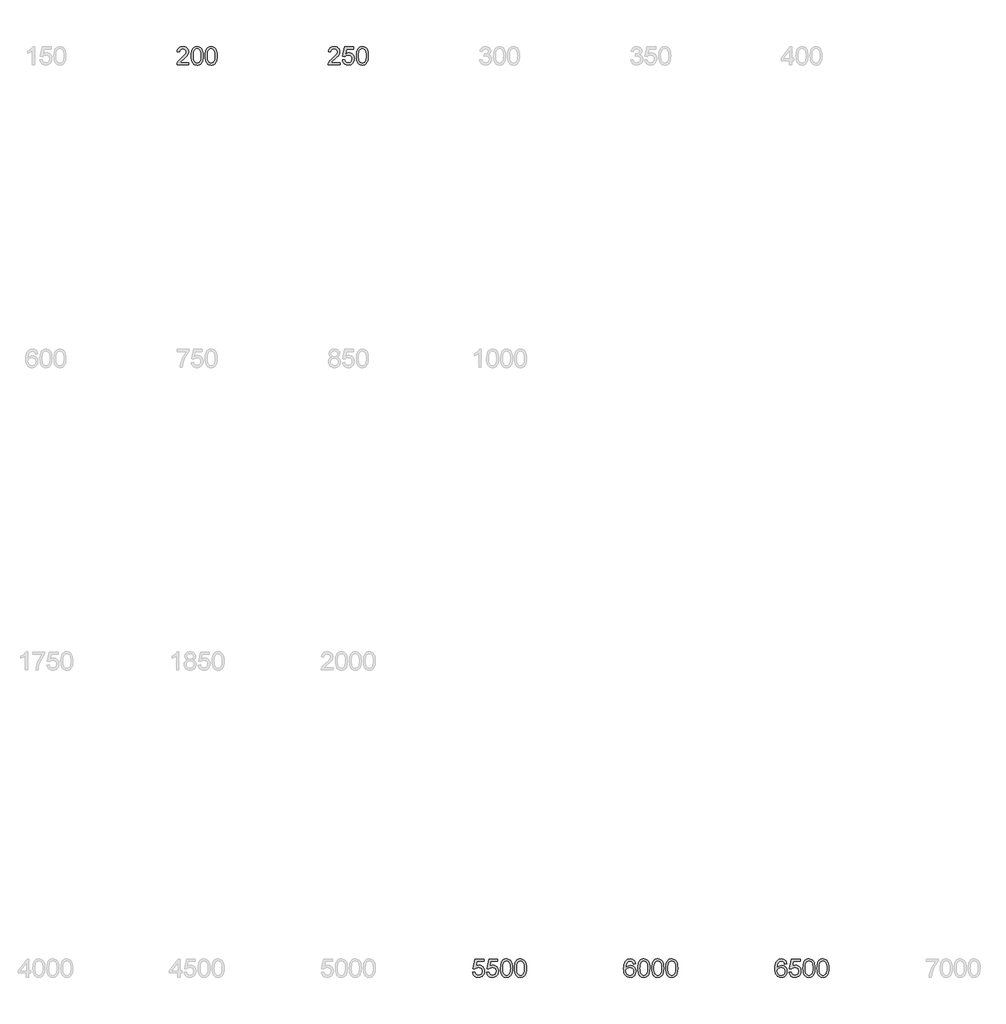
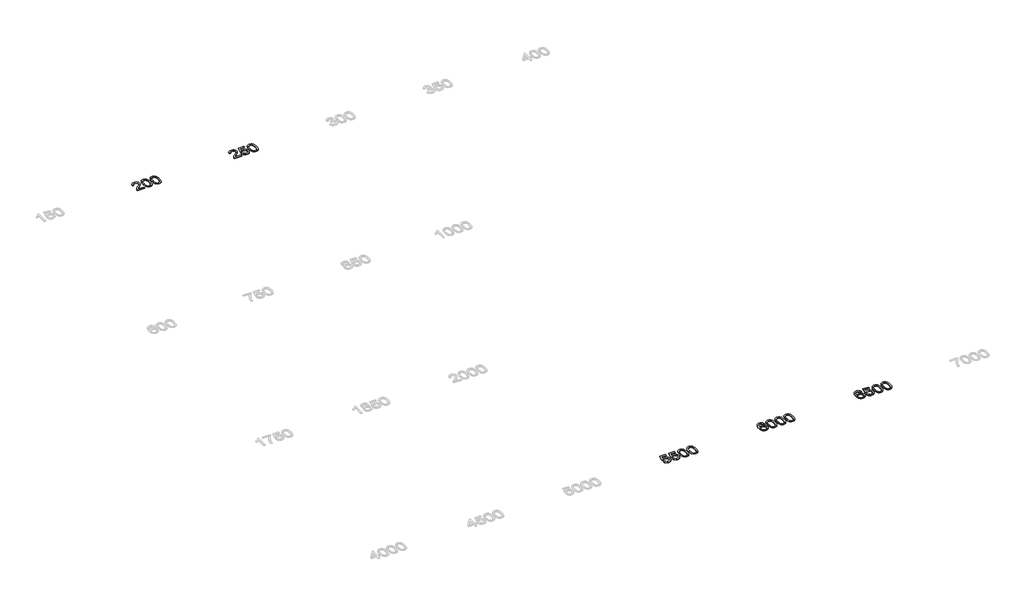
# One storey, part 5 of 8: 5 proxies.
"""IFC4 building model written with IfcOpenShell, lengths in millimetres."""

from ifc_helpers import new_model, si_unit, origin, origin_with_axes, place, context, project, spatial, polyline, outline, extrude, element, save

model = new_model("IFC4")

# Units and contexts
model_context = context("Model", 3, world=origin())
ifc_project = project(units=[si_unit("LENGTHUNIT", "METRE", prefix="MILLI")], contexts=[model_context])

# Site, building, storey
site = spatial("IfcSite", under=ifc_project)
building = spatial("IfcBuilding", under=site)
storey = spatial("IfcBuildingStorey", under=building, Name="Этаж 01", Elevation=0.0)

# Proxies
placement = place(None, origin())
element("IfcBuildingElementProxy", 1, Name="600 мм Arial", ObjectType="600 мм Arial", at=placement, inside=storey, context=model_context, shape_type="SweptSolid", body=[
    extrude(outline(polyline([(-6668.4067037, -3620.5508645), (-6668.4067037, -3695.8930971), (-7063.9534249, -3695.8930971), (-7062.2979559, -3669.3688053), (-7055.860021, -3643.9481594), (-7037.2819802, -3603.3523813), (-7010.0955008, -3563.9706137), (-6970.7689155, -3522.7494361), (-6915.7705572, -3476.635428), (-6834.4686363, -3404.4201924), (-6785.6874837, -3351.1140913), (-6771.4596476, -3329.3354771), (-6761.2969075, -3307.8511686), (-6755.1992634, -3286.6611657), (-6753.1667154, -3265.7654684), (-6755.0843003, -3246.1067743), (-6760.837055, -3228.0391698), (-6770.4249795, -3211.5626549), (-6783.8480738, -3196.6772297), (-6800.3613768, -3184.3485843), (-6819.2199276, -3175.5424091), (-6840.4237261, -3170.2587039), (-6863.9727723, -3168.4974689), (-6888.7818144, -3170.2173172), (-6910.9696972, -3175.3768622), (-6930.5364208, -3183.9761038), (-6947.4819852, -3196.0150421), (-6961.1901881, -3211.0890068), (-6971.044827, -3228.7933279), (-6977.0459021, -3249.1280051), (-6979.1934132, -3272.0930387), (-7054.5356458, -3262.6752596), (-7048.0563242, -3223.7809357), (-7036.2703048, -3189.7978364), (-7019.1775876, -3160.7259617), (-6996.7781726, -3136.5653117), (-6969.5870946, -3117.5734037), (-6938.1193884, -3104.0077551), (-6902.3750541, -3095.868366), (-6862.3540915, -3093.1552362), (-6821.974444, -3096.1718686), (-6786.0369716, -3105.2217657), (-6754.5416743, -3120.3049275), (-6727.4885521, -3141.421354), (-6705.7605218, -3167.0075468), (-6690.2405001, -3195.5000073), (-6680.9284871, -3226.8987356), (-6677.8244828, -3261.2037316), (-6681.1722089, -3297.2377731), (-6691.2153874, -3332.6464151), (-6709.03927, -3368.6620624), (-6735.7291088, -3406.5171197), (-6778.2746615, -3451.7114228), (-6843.6656862, -3509.7448076), (-6930.3386842, -3582.2175606), (-6964.3309806, -3620.5508645), (-6668.4067037, -3620.5508645)])), origin_with_axes(), (0.0, 0.0, 1.0), 20.0),
    extrude(outline(polyline([(-6593.0644711, -3399.380209), (-6587.527847, -3302.9031558), (-6580.607067, -3261.9900794), (-6570.917975, -3225.9606365), (-6558.5019576, -3194.5205215), (-6543.4004017, -3167.3754288), (-6525.6133073, -3144.5253583), (-6505.1406742, -3125.9703102), (-6481.9135248, -3111.6137153), (-6455.862881, -3101.3590047), (-6426.9887429, -3095.2061784), (-6395.2911105, -3093.1552362), (-6348.8644027, -3098.0112786), (-6307.2937372, -3112.5794056), (-6272.5288887, -3136.2894002), (-6246.5196316, -3168.5710453), (-6226.8747331, -3209.1484293), (-6211.2029601, -3257.7456409), (-6200.9390524, -3319.4578456), (-6197.5177499, -3399.380209), (-6202.9991916, -3495.3054393), (-6209.8509937, -3536.0805599), (-6219.4435168, -3572.0640176), (-6231.7629651, -3603.5179281), (-6246.7955431, -3630.7044076), (-6264.5412509, -3653.6234559), (-6285.0000883, -3672.275073), (-6308.2548289, -3686.7282369), (-6334.3882462, -3697.0519254), (-6363.40034, -3703.2461385), (-6395.2911105, -3705.3108762), (-6436.7881995, -3701.7240268), (-6473.576399, -3690.9634784), (-6505.655709, -3673.0292311), (-6533.0261295, -3647.921285), (-6559.2929039, -3602.5338438), (-6578.0548857, -3545.9811841), (-6589.3120747, -3478.2633058), (-6593.0644711, -3399.380209)]), holes=[polyline([(-6517.7222385, -3399.2330562), (-6515.5149465, -3464.7298469), (-6508.8930706, -3517.746241), (-6497.8566107, -3558.2822383), (-6482.4055669, -3586.337839), (-6463.7171616, -3605.426316), (-6442.968617, -3619.0609424), (-6420.1599333, -3627.2417183), (-6395.2911105, -3629.9686436), (-6370.4222876, -3627.2325213), (-6347.6136039, -3619.0241542), (-6326.8650594, -3605.3435426), (-6308.176654, -3586.1906862), (-6292.7256102, -3558.0891003), (-6281.6891504, -3517.5623), (-6275.0672744, -3464.6102853), (-6272.8599825, -3399.2330562), (-6274.993698, -3335.4699094), (-6281.3948448, -3283.3870159), (-6292.0634226, -3242.9843758), (-6306.9994316, -3214.2619891), (-6325.3751373, -3194.2400115), (-6346.3628051, -3179.9385989), (-6369.9624351, -3171.3577514), (-6396.1740273, -3168.4974689), (-6420.9140914, -3171.0174605), (-6443.336499, -3178.5774355), (-6463.4412501, -3191.1773939), (-6481.2283445, -3208.8173355), (-6497.1944231, -3240.0873051), (-6508.598765, -3282.2465818), (-6515.4413701, -3335.2951655), (-6517.7222385, -3399.2330562)])]), origin_with_axes(), (0.0, 0.0, 1.0), 20.0),
    extrude(outline(polyline([(-6131.5932963, -3399.380209), (-6126.0566723, -3302.9031558), (-6119.1358923, -3261.9900794), (-6109.4468002, -3225.9606365), (-6097.0307829, -3194.5205215), (-6081.929227, -3167.3754288), (-6064.1421325, -3144.5253583), (-6043.6694995, -3125.9703102), (-6020.44235, -3111.6137153), (-5994.3917062, -3101.3590047), (-5965.5175681, -3095.2061784), (-5933.8199357, -3093.1552362), (-5887.3932279, -3098.0112786), (-5845.8225625, -3112.5794056), (-5811.0577139, -3136.2894002), (-5785.0484569, -3168.5710453), (-5765.4035583, -3209.1484293), (-5749.7317853, -3257.7456409), (-5739.4678777, -3319.4578456), (-5736.0465751, -3399.380209), (-5741.5280168, -3495.3054393), (-5748.379819, -3536.0805599), (-5757.972342, -3572.0640176), (-5770.2917903, -3603.5179281), (-5785.3243684, -3630.7044076), (-5803.0700761, -3653.6234559), (-5823.5289136, -3672.275073), (-5846.7836542, -3686.7282369), (-5872.9170714, -3697.0519254), (-5901.9291653, -3703.2461385), (-5933.8199357, -3705.3108762), (-5975.3170248, -3701.7240268), (-6012.1052243, -3690.9634784), (-6044.1845343, -3673.0292311), (-6071.5549547, -3647.921285), (-6097.8217292, -3602.5338438), (-6116.5837109, -3545.9811841), (-6127.8409, -3478.2633058), (-6131.5932963, -3399.380209)]), holes=[polyline([(-6056.2510637, -3399.2330562), (-6054.0437717, -3464.7298469), (-6047.4218958, -3517.746241), (-6036.385436, -3558.2822383), (-6020.9343922, -3586.337839), (-6002.2459868, -3605.426316), (-5981.4974423, -3619.0609424), (-5958.6887586, -3627.2417183), (-5933.8199357, -3629.9686436), (-5908.9511128, -3627.2325213), (-5886.1424291, -3619.0241542), (-5865.3938846, -3605.3435426), (-5846.7054793, -3586.1906862), (-5831.2544355, -3558.0891003), (-5820.2179756, -3517.5623), (-5813.5960997, -3464.6102853), (-5811.3888077, -3399.2330562), (-5813.5225233, -3335.4699094), (-5819.92367, -3283.3870159), (-5830.5922479, -3242.9843758), (-5845.5282569, -3214.2619891), (-5863.9039625, -3194.2400115), (-5884.8916304, -3179.9385989), (-5908.4912603, -3171.3577514), (-5934.7028525, -3168.4974689), (-5959.4429167, -3171.0174605), (-5981.8653243, -3178.5774355), (-6001.9700753, -3191.1773939), (-6019.7571698, -3208.8173355), (-6035.7232484, -3240.0873051), (-6047.1275902, -3282.2465818), (-6053.9701953, -3335.2951655), (-6056.2510637, -3399.2330562)])]), origin_with_axes(), (0.0, 0.0, 1.0), 20.0),
])
element("IfcBuildingElementProxy", 2, Name="600 мм Arial", ObjectType="600 мм Arial", at=placement, inside=storey, context=model_context, shape_type="SweptSolid", body=[
    extrude(outline(polyline([(-1668.4067037, -3620.5508645), (-1668.4067037, -3695.8930971), (-2063.9534249, -3695.8930971), (-2062.2979559, -3669.3688053), (-2055.860021, -3643.9481594), (-2037.2819802, -3603.3523813), (-2010.0955008, -3563.9706137), (-1970.7689155, -3522.7494361), (-1915.7705572, -3476.635428), (-1834.4686363, -3404.4201924), (-1785.6874837, -3351.1140913), (-1771.4596476, -3329.3354771), (-1761.2969075, -3307.8511686), (-1755.1992634, -3286.6611657), (-1753.1667154, -3265.7654684), (-1755.0843003, -3246.1067743), (-1760.837055, -3228.0391698), (-1770.4249795, -3211.5626549), (-1783.8480738, -3196.6772297), (-1800.3613768, -3184.3485843), (-1819.2199276, -3175.5424091), (-1840.4237261, -3170.2587039), (-1863.9727723, -3168.4974689), (-1888.7818144, -3170.2173172), (-1910.9696972, -3175.3768622), (-1930.5364208, -3183.9761038), (-1947.4819852, -3196.0150421), (-1961.1901881, -3211.0890068), (-1971.044827, -3228.7933279), (-1977.0459021, -3249.1280051), (-1979.1934132, -3272.0930387), (-2054.5356458, -3262.6752596), (-2048.0563242, -3223.7809357), (-2036.2703048, -3189.7978364), (-2019.1775876, -3160.7259617), (-1996.7781726, -3136.5653117), (-1969.5870946, -3117.5734037), (-1938.1193884, -3104.0077551), (-1902.3750541, -3095.868366), (-1862.3540915, -3093.1552362), (-1821.974444, -3096.1718686), (-1786.0369716, -3105.2217657), (-1754.5416743, -3120.3049275), (-1727.4885521, -3141.421354), (-1705.7605218, -3167.0075468), (-1690.2405001, -3195.5000073), (-1680.9284871, -3226.8987356), (-1677.8244828, -3261.2037316), (-1681.1722089, -3297.2377731), (-1691.2153874, -3332.6464151), (-1709.03927, -3368.6620624), (-1735.7291088, -3406.5171197), (-1778.2746615, -3451.7114228), (-1843.6656862, -3509.7448076), (-1930.3386842, -3582.2175606), (-1964.3309806, -3620.5508645), (-1668.4067037, -3620.5508645)])), origin_with_axes(), (0.0, 0.0, 1.0), 20.0),
    extrude(outline(polyline([(-1593.0644711, -3535.7908528), (-1517.7222385, -3526.3730738), (-1512.0936439, -3550.5935046), (-1503.8898754, -3571.6041651), (-1493.110933, -3589.4050551), (-1479.7568166, -3603.9961747), (-1463.8551173, -3615.3591299), (-1445.4334264, -3623.4755264), (-1424.4917438, -3628.3453643), (-1401.0300696, -3629.9686436), (-1372.335274, -3627.7107679), (-1347.0249927, -3620.9371406), (-1325.0992258, -3609.6477619), (-1306.5579732, -3593.8426317), (-1291.8151023, -3574.3034992), (-1281.2844802, -3551.8121137), (-1274.9661069, -3526.3684752), (-1272.8599825, -3497.9725837), (-1274.8327497, -3471.1355922), (-1280.7510513, -3447.2784448), (-1290.6148873, -3426.4011416), (-1304.4242577, -3408.5036825), (-1322.2251477, -3394.1470876), (-1344.0635426, -3383.892377), (-1369.9394425, -3377.7395507), (-1399.8528472, -3375.6886085), (-1436.4019234, -3378.9627583), (-1465.9980299, -3388.7852076), (-1489.6344481, -3403.8315812), (-1508.3044594, -3422.7775039), (-1583.646692, -3413.3597248), (-1517.7222385, -3102.5730153), (-1225.7710871, -3102.5730153), (-1225.7710871, -3177.9152479), (-1456.8009801, -3177.9152479), (-1489.0274428, -3343.9036042), (-1462.4387716, -3324.8473168), (-1435.2063069, -3311.235683), (-1407.3300488, -3303.0687027), (-1378.8099971, -3300.3463759), (-1342.1183666, -3303.7216932), (-1308.4157773, -3313.8476451), (-1277.7022292, -3330.7242317), (-1249.9777224, -3354.3514528), (-1227.0264844, -3383.2853717), (-1210.632743, -3416.0820516), (-1200.7964981, -3452.7414924), (-1197.5177499, -3493.2636942), (-1200.4700029, -3532.2959739), (-1209.3267619, -3568.6059268), (-1224.088027, -3602.193553), (-1244.753798, -3633.0588524), (-1276.0605558, -3664.6691128), (-1312.5912379, -3687.2478703), (-1354.3458444, -3700.7951247), (-1401.3243752, -3705.3108762), (-1440.2049035, -3702.409207), (-1475.3238385, -3693.7041993), (-1506.6811801, -3679.1958531), (-1534.2769282, -3658.8841684), (-1557.2373633, -3633.7808208), (-1574.6887654, -3604.8974856), (-1586.6311347, -3572.234163), (-1593.0644711, -3535.7908528)])), origin_with_axes(), (0.0, 0.0, 1.0), 20.0),
    extrude(outline(polyline([(-1131.5932963, -3399.380209), (-1126.0566723, -3302.9031558), (-1119.1358923, -3261.9900794), (-1109.4468002, -3225.9606365), (-1097.0307829, -3194.5205215), (-1081.929227, -3167.3754288), (-1064.1421325, -3144.5253583), (-1043.6694995, -3125.9703102), (-1020.44235, -3111.6137153), (-994.3917062, -3101.3590047), (-965.5175681, -3095.2061784), (-933.8199357, -3093.1552362), (-887.3932279, -3098.0112786), (-845.8225625, -3112.5794056), (-811.0577139, -3136.2894002), (-785.0484569, -3168.5710453), (-765.4035583, -3209.1484293), (-749.7317853, -3257.7456409), (-739.4678777, -3319.4578456), (-736.0465751, -3399.380209), (-741.5280168, -3495.3054393), (-748.379819, -3536.0805599), (-757.972342, -3572.0640176), (-770.2917903, -3603.5179281), (-785.3243684, -3630.7044076), (-803.0700761, -3653.6234559), (-823.5289136, -3672.275073), (-846.7836542, -3686.7282369), (-872.9170714, -3697.0519254), (-901.9291653, -3703.2461385), (-933.8199357, -3705.3108762), (-975.3170248, -3701.7240268), (-1012.1052243, -3690.9634784), (-1044.1845343, -3673.0292311), (-1071.5549547, -3647.921285), (-1097.8217292, -3602.5338438), (-1116.5837109, -3545.9811841), (-1127.8409, -3478.2633058), (-1131.5932963, -3399.380209)]), holes=[polyline([(-1056.2510637, -3399.2330562), (-1054.0437717, -3464.7298469), (-1047.4218958, -3517.746241), (-1036.385436, -3558.2822383), (-1020.9343922, -3586.337839), (-1002.2459868, -3605.426316), (-981.4974423, -3619.0609424), (-958.6887586, -3627.2417183), (-933.8199357, -3629.9686436), (-908.9511128, -3627.2325213), (-886.1424291, -3619.0241542), (-865.3938846, -3605.3435426), (-846.7054793, -3586.1906862), (-831.2544355, -3558.0891003), (-820.2179756, -3517.5623), (-813.5960997, -3464.6102853), (-811.3888077, -3399.2330562), (-813.5225233, -3335.4699094), (-819.92367, -3283.3870159), (-830.5922479, -3242.9843758), (-845.5282569, -3214.2619891), (-863.9039625, -3194.2400115), (-884.8916304, -3179.9385989), (-908.4912603, -3171.3577514), (-934.7028525, -3168.4974689), (-959.4429167, -3171.0174605), (-981.8653243, -3178.5774355), (-1001.9700753, -3191.1773939), (-1019.7571698, -3208.8173355), (-1035.7232484, -3240.0873051), (-1047.1275902, -3282.2465818), (-1053.9701953, -3335.2951655), (-1056.2510637, -3399.2330562)])]), origin_with_axes(), (0.0, 0.0, 1.0), 20.0),
])
element("IfcBuildingElementProxy", 3, Name="600 мм Arial", ObjectType="600 мм Arial", at=placement, inside=storey, context=model_context, shape_type="SweptSolid", body=[
    extrude(outline(polyline([(2714.7287668, -33688.2668626), (2790.0709994, -33678.8490835), (2795.6995939, -33703.0695144), (2803.9033624, -33724.0801749), (2814.6823049, -33741.8810649), (2828.0364213, -33756.4721845), (2843.9381206, -33767.8351397), (2862.3598115, -33775.9515362), (2883.301494, -33780.8213741), (2906.7631683, -33782.4446534), (2935.4579639, -33780.1867776), (2960.7682452, -33773.4131504), (2982.6940121, -33762.1237717), (3001.2352647, -33746.3186415), (3015.9781356, -33726.779509), (3026.5087577, -33704.2881235), (3032.827131, -33678.844485), (3034.9332554, -33650.4485935), (3032.9604882, -33623.611602), (3027.0421866, -33599.7544546), (3017.1783506, -33578.8771514), (3003.3689802, -33560.9796923), (2985.5680902, -33546.6230974), (2963.7296952, -33536.3683868), (2937.8537954, -33530.2155604), (2907.9403907, -33528.1646183), (2871.3913145, -33531.4387681), (2841.7952079, -33541.2612174), (2818.1587898, -33556.307591), (2799.4887785, -33575.2535137), (2724.1465459, -33565.8357346), (2790.0709994, -33255.0490251), (3082.0221508, -33255.0490251), (3082.0221508, -33330.3912577), (2850.9922578, -33330.3912577), (2818.765795, -33496.3796139), (2845.3544662, -33477.3233266), (2872.5869309, -33463.7116928), (2900.4631891, -33455.5447125), (2928.9832408, -33452.8223857), (2965.6748713, -33456.197703), (2999.3774606, -33466.3236549), (3030.0910086, -33483.2002415), (3057.8155155, -33506.8274626), (3080.7667535, -33535.7613815), (3097.1604949, -33568.5580614), (3106.9967397, -33605.2175022), (3110.275488, -33645.739704), (3107.323235, -33684.7719837), (3098.466476, -33721.0819366), (3083.7052109, -33754.6695628), (3063.0394398, -33785.5348622), (3031.7326821, -33817.1451226), (2995.2019999, -33839.72388), (2953.4473935, -33853.2711345), (2906.4688627, -33857.786886), (2867.5883343, -33854.8852168), (2832.4693994, -33846.1802091), (2801.1120578, -33831.6718629), (2773.5163096, -33811.3601782), (2750.5558746, -33786.2568306), (2733.1044725, -33757.3734954), (2721.1621032, -33724.7101728), (2714.7287668, -33688.2668626)])), origin_with_axes(), (0.0, 0.0, 1.0), 20.0),
    extrude(outline(polyline([(3176.1999416, -33688.2668626), (3251.5421742, -33678.8490835), (3257.1707687, -33703.0695144), (3265.3745372, -33724.0801749), (3276.1534796, -33741.8810649), (3289.5075961, -33756.4721845), (3305.4092953, -33767.8351397), (3323.8309862, -33775.9515362), (3344.7726688, -33780.8213741), (3368.234343, -33782.4446534), (3396.9291387, -33780.1867776), (3422.2394199, -33773.4131504), (3444.1651868, -33762.1237717), (3462.7064394, -33746.3186415), (3477.4493104, -33726.779509), (3487.9799325, -33704.2881235), (3494.2983057, -33678.844485), (3496.4044302, -33650.4485935), (3494.431663, -33623.611602), (3488.5133614, -33599.7544546), (3478.6495254, -33578.8771514), (3464.840155, -33560.9796923), (3447.0392649, -33546.6230974), (3425.20087, -33536.3683868), (3399.3249702, -33530.2155604), (3369.4115654, -33528.1646183), (3332.8624892, -33531.4387681), (3303.2663827, -33541.2612174), (3279.6299645, -33556.307591), (3260.9599532, -33575.2535137), (3185.6177206, -33565.8357346), (3251.5421742, -33255.0490251), (3543.4933255, -33255.0490251), (3543.4933255, -33330.3912577), (3312.4634326, -33330.3912577), (3280.2369698, -33496.3796139), (3306.825641, -33477.3233266), (3334.0581057, -33463.7116928), (3361.9343639, -33455.5447125), (3390.4544155, -33452.8223857), (3427.146046, -33456.197703), (3460.8486353, -33466.3236549), (3491.5621834, -33483.2002415), (3519.2866903, -33506.8274626), (3542.2379282, -33535.7613815), (3558.6316696, -33568.5580614), (3568.4679145, -33605.2175022), (3571.7466628, -33645.739704), (3568.7944098, -33684.7719837), (3559.9376507, -33721.0819366), (3545.1763857, -33754.6695628), (3524.5106146, -33785.5348622), (3493.2038568, -33817.1451226), (3456.6731747, -33839.72388), (3414.9185682, -33853.2711345), (3367.9400374, -33857.786886), (3329.0595091, -33854.8852168), (3293.9405741, -33846.1802091), (3262.5832325, -33831.6718629), (3234.9874844, -33811.3601782), (3212.0270494, -33786.2568306), (3194.5756472, -33757.3734954), (3182.6332779, -33724.7101728), (3176.1999416, -33688.2668626)])), origin_with_axes(), (0.0, 0.0, 1.0), 20.0),
    extrude(outline(polyline([(3637.6711163, -33551.8562188), (3643.2077403, -33455.3791656), (3650.1285204, -33414.4660892), (3659.8176124, -33378.4366463), (3672.2336298, -33346.9965313), (3687.3351857, -33319.8514386), (3705.1222801, -33297.0013681), (3725.5949132, -33278.44632), (3748.8220626, -33264.0897251), (3774.8727064, -33253.8350145), (3803.7468445, -33247.6821882), (3835.4444769, -33245.631246), (3881.8711847, -33250.4872884), (3923.4418502, -33265.0554154), (3958.2066987, -33288.76541), (3984.2159558, -33321.047055), (4003.8608543, -33361.6244391), (4019.5326273, -33410.2216507), (4029.796535, -33471.9338554), (4033.2178375, -33551.8562188), (4027.7363958, -33647.7814491), (4020.8845936, -33688.5565697), (4011.2920706, -33724.5400273), (3998.9726223, -33755.9939379), (3983.9400443, -33783.1804174), (3966.1943365, -33806.0994657), (3945.7354991, -33824.7510828), (3922.4807584, -33839.2042467), (3896.3473412, -33849.5279352), (3867.3352474, -33855.7221483), (3835.4444769, -33857.786886), (3793.9473879, -33854.2000365), (3757.1591883, -33843.4394882), (3725.0798784, -33825.5052409), (3697.7094579, -33800.3972948), (3671.4426835, -33755.0098536), (3652.6807017, -33698.4571939), (3641.4235127, -33630.7393156), (3637.6711163, -33551.8562188)]), holes=[polyline([(3713.0133489, -33551.709066), (3715.2206409, -33617.2058567), (3721.8425168, -33670.2222508), (3732.8789767, -33710.7582481), (3748.3300205, -33738.8138488), (3767.0184258, -33757.9023258), (3787.7669703, -33771.5369522), (3810.575654, -33779.7177281), (3835.4444769, -33782.4446534), (3860.3132998, -33779.7085311), (3883.1219835, -33771.500164), (3903.870528, -33757.8195523), (3922.5589334, -33738.666696), (3938.0099772, -33710.5651101), (3949.046437, -33670.0383098), (3955.6683129, -33617.0862951), (3957.8756049, -33551.709066), (3955.7418893, -33487.9459192), (3949.3407426, -33435.8630257), (3938.6721648, -33395.4603856), (3923.7361558, -33366.7379988), (3905.3604501, -33346.7160213), (3884.3727823, -33332.4146087), (3860.7731523, -33323.8337612), (3834.5615601, -33320.9734786), (3809.8214959, -33323.4934703), (3787.3990883, -33331.0534453), (3767.2943373, -33343.6534036), (3749.5072428, -33361.2933453), (3733.5411642, -33392.5633149), (3722.1368224, -33434.7225915), (3715.2942173, -33487.7711753), (3713.0133489, -33551.709066)])]), origin_with_axes(), (0.0, 0.0, 1.0), 20.0),
    extrude(outline(polyline([(4099.1422911, -33551.8562188), (4104.6789151, -33455.3791656), (4111.5996951, -33414.4660892), (4121.2887872, -33378.4366463), (4133.7048045, -33346.9965313), (4148.8063604, -33319.8514386), (4166.5934549, -33297.0013681), (4187.0660879, -33278.44632), (4210.2932374, -33264.0897251), (4236.3438812, -33253.8350145), (4265.2180193, -33247.6821882), (4296.9156517, -33245.631246), (4343.3423595, -33250.4872884), (4384.9130249, -33265.0554154), (4419.6778735, -33288.76541), (4445.6871305, -33321.047055), (4465.3320291, -33361.6244391), (4481.003802, -33410.2216507), (4491.2677097, -33471.9338554), (4494.6890123, -33551.8562188), (4489.2075705, -33647.7814491), (4482.3557684, -33688.5565697), (4472.7632454, -33724.5400273), (4460.443797, -33755.9939379), (4445.411219, -33783.1804174), (4427.6655113, -33806.0994657), (4407.2066738, -33824.7510828), (4383.9519332, -33839.2042467), (4357.818516, -33849.5279352), (4328.8064221, -33855.7221483), (4296.9156517, -33857.786886), (4255.4185626, -33854.2000365), (4218.6303631, -33843.4394882), (4186.5510531, -33825.5052409), (4159.1806327, -33800.3972948), (4132.9138582, -33755.0098536), (4114.1518765, -33698.4571939), (4102.8946874, -33630.7393156), (4099.1422911, -33551.8562188)]), holes=[polyline([(4174.4845237, -33551.709066), (4176.6918156, -33617.2058567), (4183.3136916, -33670.2222508), (4194.3501514, -33710.7582481), (4209.8011952, -33738.8138488), (4228.4896006, -33757.9023258), (4249.2381451, -33771.5369522), (4272.0468288, -33779.7177281), (4296.9156517, -33782.4446534), (4321.7844745, -33779.7085311), (4344.5931582, -33771.500164), (4365.3417028, -33757.8195523), (4384.0301081, -33738.666696), (4399.4811519, -33710.5651101), (4410.5176118, -33670.0383098), (4417.1394877, -33617.0862951), (4419.3467797, -33551.709066), (4417.2130641, -33487.9459192), (4410.8119174, -33435.8630257), (4400.1433395, -33395.4603856), (4385.2073305, -33366.7379988), (4366.8316248, -33346.7160213), (4345.843957, -33332.4146087), (4322.244327, -33323.8337612), (4296.0327349, -33320.9734786), (4271.2926707, -33323.4934703), (4248.8702631, -33331.0534453), (4228.7655121, -33343.6534036), (4210.9784176, -33361.2933453), (4195.012339, -33392.5633149), (4183.6079971, -33434.7225915), (4176.765392, -33487.7711753), (4174.4845237, -33551.709066)])]), origin_with_axes(), (0.0, 0.0, 1.0), 20.0),
])
element("IfcBuildingElementProxy", 4, Name="600 мм Arial", ObjectType="600 мм Arial", at=placement, inside=storey, context=model_context, shape_type="SweptSolid", body=[
    extrude(outline(polyline([(8100.8577089, -33405.7334903), (8025.5154763, -33415.1512694), (8013.3753705, -33377.8112469), (7996.9678335, -33352.3170246), (7980.7718287, -33338.6042233), (7962.7915962, -33328.8093651), (7943.027136, -33322.9324503), (7921.4784481, -33320.9734786), (7886.4560822, -33325.5352154), (7853.4938554, -33339.2204256), (7825.1853359, -33368.0439799), (7802.0639525, -33407.7200531), (7793.027851, -33433.0257358), (7786.4473618, -33463.8404515), (7780.6532203, -33541.9969813), (7810.8747262, -33506.7354921), (7847.0927087, -33481.8850633), (7887.2838166, -33467.1513894), (7929.4246992, -33462.2401648), (7965.6242875, -33465.597088), (7999.0279727, -33475.6678576), (8029.6357547, -33492.4524736), (8057.4476335, -33515.9509361), (8080.5598199, -33544.7652934), (8097.0685244, -33577.4975939), (8106.9737471, -33614.1478376), (8110.275488, -33654.7160247), (8108.7211866, -33682.1830141), (8104.0582823, -33708.6659193), (8096.2867752, -33734.16474), (8085.4066651, -33758.6794765), (8071.8042284, -33781.2950222), (8055.8657409, -33801.0962705), (8037.5912028, -33818.0832217), (8016.980614, -33832.2558755), (7994.475433, -33843.4256926), (7970.5171181, -33851.4041334), (7945.1056692, -33856.1911978), (7918.2410865, -33857.786886), (7873.3272935, -33853.5562431), (7832.763705, -33840.8643142), (7796.5503211, -33819.7110995), (7764.6871418, -33790.0965989), (7738.7100744, -33750.7700136), (7720.1550262, -33700.4805449), (7709.0219974, -33639.2281927), (7705.3109877, -33567.012957), (7709.4312661, -33486.0513269), (7721.7921011, -33416.9538912), (7742.3934928, -33359.7206498), (7755.7843975, -33335.553102), (7771.2354413, -33314.3516027), (7802.4962138, -33284.2864467), (7838.7417874, -33262.8113352), (7879.972162, -33249.9262683), (7926.1873376, -33245.631246), (7960.8878068, -33248.2891934), (7992.2957322, -33256.2630357), (8020.4111136, -33269.5527728), (8045.2339513, -33288.1584047), (8066.0928604, -33311.454532), (8082.3164564, -33338.8157554), (8093.9047392, -33370.2420748), (8100.8577089, -33405.7334903)]), holes=[polyline([(7780.6532203, -33653.5388023), (7785.012622, -33686.9240933), (7798.0908269, -33718.8010682), (7818.397913, -33746.2082769), (7844.4439583, -33766.1842692), (7875.8794748, -33778.3795573), (7912.3549746, -33782.4446534), (7938.5435741, -33780.338529), (7962.0742263, -33774.0201557), (7982.946931, -33763.4895336), (8001.1616883, -33748.7466626), (8015.9367489, -33730.3893511), (8026.4903636, -33709.0154072), (8032.8225325, -33684.6248309), (8034.9332554, -33657.2176222), (8032.8501236, -33630.8818699), (8026.6007282, -33607.4983706), (8016.1850692, -33587.0671243), (8001.6031466, -33569.588131), (7983.3332071, -33555.5856225), (7961.8534971, -33545.5838308), (7937.1640167, -33539.5827557), (7909.2647659, -33537.5823974), (7883.4256542, -33539.5827557), (7859.6190906, -33545.5838308), (7837.845075, -33555.5856225), (7818.1036075, -33569.588131), (7801.7190631, -33586.837198), (7790.0158171, -33606.5786656), (7782.9938695, -33628.8125337), (7780.6532203, -33653.5388023)])]), origin_with_axes(), (0.0, 0.0, 1.0), 20.0),
    extrude(outline(polyline([(8176.1999416, -33551.8562188), (8181.7365656, -33455.3791656), (8188.6573456, -33414.4660892), (8198.3464377, -33378.4366463), (8210.762455, -33346.9965313), (8225.8640109, -33319.8514386), (8243.6511054, -33297.0013681), (8264.1237384, -33278.44632), (8287.3508879, -33264.0897251), (8313.4015317, -33253.8350145), (8342.2756698, -33247.6821882), (8373.9733022, -33245.631246), (8420.40001, -33250.4872884), (8461.9706754, -33265.0554154), (8496.735524, -33288.76541), (8522.744781, -33321.047055), (8542.3896796, -33361.6244391), (8558.0614525, -33410.2216507), (8568.3253602, -33471.9338554), (8571.7466628, -33551.8562188), (8566.265221, -33647.7814491), (8559.4134189, -33688.5565697), (8549.8208959, -33724.5400273), (8537.5014475, -33755.9939379), (8522.4688695, -33783.1804174), (8504.7231618, -33806.0994657), (8484.2643243, -33824.7510828), (8461.0095837, -33839.2042467), (8434.8761665, -33849.5279352), (8405.8640726, -33855.7221483), (8373.9733022, -33857.786886), (8332.4762131, -33854.2000365), (8295.6880136, -33843.4394882), (8263.6087036, -33825.5052409), (8236.2382832, -33800.3972948), (8209.9715087, -33755.0098536), (8191.209527, -33698.4571939), (8179.9523379, -33630.7393156), (8176.1999416, -33551.8562188)]), holes=[polyline([(8251.5421742, -33551.709066), (8253.7494661, -33617.2058567), (8260.3713421, -33670.2222508), (8271.4078019, -33710.7582481), (8286.8588457, -33738.8138488), (8305.5472511, -33757.9023258), (8326.2957956, -33771.5369522), (8349.1044793, -33779.7177281), (8373.9733022, -33782.4446534), (8398.842125, -33779.7085311), (8421.6508087, -33771.500164), (8442.3993533, -33757.8195523), (8461.0877586, -33738.666696), (8476.5388024, -33710.5651101), (8487.5752623, -33670.0383098), (8494.1971382, -33617.0862951), (8496.4044302, -33551.709066), (8494.2707146, -33487.9459192), (8487.8695679, -33435.8630257), (8477.20099, -33395.4603856), (8462.264981, -33366.7379988), (8443.8892753, -33346.7160213), (8422.9016075, -33332.4146087), (8399.3019775, -33323.8337612), (8373.0903854, -33320.9734786), (8348.3503212, -33323.4934703), (8325.9279136, -33331.0534453), (8305.8231626, -33343.6534036), (8288.0360681, -33361.2933453), (8272.0699895, -33392.5633149), (8260.6656476, -33434.7225915), (8253.8230425, -33487.7711753), (8251.5421742, -33551.709066)])]), origin_with_axes(), (0.0, 0.0, 1.0), 20.0),
    extrude(outline(polyline([(8637.6711163, -33551.8562188), (8643.2077403, -33455.3791656), (8650.1285204, -33414.4660892), (8659.8176124, -33378.4366463), (8672.2336298, -33346.9965313), (8687.3351857, -33319.8514386), (8705.1222801, -33297.0013681), (8725.5949132, -33278.44632), (8748.8220626, -33264.0897251), (8774.8727064, -33253.8350145), (8803.7468445, -33247.6821882), (8835.4444769, -33245.631246), (8881.8711847, -33250.4872884), (8923.4418502, -33265.0554154), (8958.2066987, -33288.76541), (8984.2159558, -33321.047055), (9003.8608543, -33361.6244391), (9019.5326273, -33410.2216507), (9029.796535, -33471.9338554), (9033.2178375, -33551.8562188), (9027.7363958, -33647.7814491), (9020.8845936, -33688.5565697), (9011.2920706, -33724.5400273), (8998.9726223, -33755.9939379), (8983.9400443, -33783.1804174), (8966.1943365, -33806.0994657), (8945.7354991, -33824.7510828), (8922.4807584, -33839.2042467), (8896.3473412, -33849.5279352), (8867.3352474, -33855.7221483), (8835.4444769, -33857.786886), (8793.9473879, -33854.2000365), (8757.1591883, -33843.4394882), (8725.0798784, -33825.5052409), (8697.7094579, -33800.3972948), (8671.4426835, -33755.0098536), (8652.6807017, -33698.4571939), (8641.4235127, -33630.7393156), (8637.6711163, -33551.8562188)]), holes=[polyline([(8713.0133489, -33551.709066), (8715.2206409, -33617.2058567), (8721.8425168, -33670.2222508), (8732.8789767, -33710.7582481), (8748.3300205, -33738.8138488), (8767.0184258, -33757.9023258), (8787.7669703, -33771.5369522), (8810.575654, -33779.7177281), (8835.4444769, -33782.4446534), (8860.3132998, -33779.7085311), (8883.1219835, -33771.500164), (8903.870528, -33757.8195523), (8922.5589334, -33738.666696), (8938.0099772, -33710.5651101), (8949.046437, -33670.0383098), (8955.6683129, -33617.0862951), (8957.8756049, -33551.709066), (8955.7418893, -33487.9459192), (8949.3407426, -33435.8630257), (8938.6721648, -33395.4603856), (8923.7361558, -33366.7379988), (8905.3604501, -33346.7160213), (8884.3727823, -33332.4146087), (8860.7731523, -33323.8337612), (8834.5615601, -33320.9734786), (8809.8214959, -33323.4934703), (8787.3990883, -33331.0534453), (8767.2943373, -33343.6534036), (8749.5072428, -33361.2933453), (8733.5411642, -33392.5633149), (8722.1368224, -33434.7225915), (8715.2942173, -33487.7711753), (8713.0133489, -33551.709066)])]), origin_with_axes(), (0.0, 0.0, 1.0), 20.0),
    extrude(outline(polyline([(9099.1422911, -33551.8562188), (9104.6789151, -33455.3791656), (9111.5996951, -33414.4660892), (9121.2887872, -33378.4366463), (9133.7048045, -33346.9965313), (9148.8063604, -33319.8514386), (9166.5934549, -33297.0013681), (9187.0660879, -33278.44632), (9210.2932374, -33264.0897251), (9236.3438812, -33253.8350145), (9265.2180193, -33247.6821882), (9296.9156517, -33245.631246), (9343.3423595, -33250.4872884), (9384.9130249, -33265.0554154), (9419.6778735, -33288.76541), (9445.6871305, -33321.047055), (9465.3320291, -33361.6244391), (9481.003802, -33410.2216507), (9491.2677097, -33471.9338554), (9494.6890123, -33551.8562188), (9489.2075705, -33647.7814491), (9482.3557684, -33688.5565697), (9472.7632454, -33724.5400273), (9460.443797, -33755.9939379), (9445.411219, -33783.1804174), (9427.6655113, -33806.0994657), (9407.2066738, -33824.7510828), (9383.9519332, -33839.2042467), (9357.818516, -33849.5279352), (9328.8064221, -33855.7221483), (9296.9156517, -33857.786886), (9255.4185626, -33854.2000365), (9218.6303631, -33843.4394882), (9186.5510531, -33825.5052409), (9159.1806327, -33800.3972948), (9132.9138582, -33755.0098536), (9114.1518765, -33698.4571939), (9102.8946874, -33630.7393156), (9099.1422911, -33551.8562188)]), holes=[polyline([(9174.4845237, -33551.709066), (9176.6918156, -33617.2058567), (9183.3136916, -33670.2222508), (9194.3501514, -33710.7582481), (9209.8011952, -33738.8138488), (9228.4896006, -33757.9023258), (9249.2381451, -33771.5369522), (9272.0468288, -33779.7177281), (9296.9156517, -33782.4446534), (9321.7844745, -33779.7085311), (9344.5931582, -33771.500164), (9365.3417028, -33757.8195523), (9384.0301081, -33738.666696), (9399.4811519, -33710.5651101), (9410.5176118, -33670.0383098), (9417.1394877, -33617.0862951), (9419.3467797, -33551.709066), (9417.2130641, -33487.9459192), (9410.8119174, -33435.8630257), (9400.1433395, -33395.4603856), (9385.2073305, -33366.7379988), (9366.8316248, -33346.7160213), (9345.843957, -33332.4146087), (9322.244327, -33323.8337612), (9296.0327349, -33320.9734786), (9271.2926707, -33323.4934703), (9248.8702631, -33331.0534453), (9228.7655121, -33343.6534036), (9210.9784176, -33361.2933453), (9195.012339, -33392.5633149), (9183.6079971, -33434.7225915), (9176.765392, -33487.7711753), (9174.4845237, -33551.709066)])]), origin_with_axes(), (0.0, 0.0, 1.0), 20.0),
])
element("IfcBuildingElementProxy", 5, Name="600 мм Arial", ObjectType="600 мм Arial", at=placement, inside=storey, context=model_context, shape_type="SweptSolid", body=[
    extrude(outline(polyline([(13100.8577089, -33405.7334903), (13025.5154763, -33415.1512694), (13013.3753705, -33377.8112469), (12996.9678335, -33352.3170246), (12980.7718287, -33338.6042233), (12962.7915962, -33328.8093651), (12943.027136, -33322.9324503), (12921.4784481, -33320.9734786), (12886.4560822, -33325.5352154), (12853.4938554, -33339.2204256), (12825.1853359, -33368.0439799), (12802.0639525, -33407.7200531), (12793.027851, -33433.0257358), (12786.4473618, -33463.8404515), (12780.6532203, -33541.9969813), (12810.8747262, -33506.7354921), (12847.0927087, -33481.8850633), (12887.2838166, -33467.1513894), (12929.4246992, -33462.2401648), (12965.6242875, -33465.597088), (12999.0279727, -33475.6678576), (13029.6357547, -33492.4524736), (13057.4476335, -33515.9509361), (13080.5598199, -33544.7652934), (13097.0685244, -33577.4975939), (13106.9737471, -33614.1478376), (13110.275488, -33654.7160247), (13108.7211866, -33682.1830141), (13104.0582823, -33708.6659193), (13096.2867752, -33734.16474), (13085.4066651, -33758.6794765), (13071.8042284, -33781.2950222), (13055.8657409, -33801.0962705), (13037.5912028, -33818.0832217), (13016.980614, -33832.2558755), (12994.475433, -33843.4256926), (12970.5171181, -33851.4041334), (12945.1056692, -33856.1911978), (12918.2410865, -33857.786886), (12873.3272935, -33853.5562431), (12832.763705, -33840.8643142), (12796.5503211, -33819.7110995), (12764.6871418, -33790.0965989), (12738.7100744, -33750.7700136), (12720.1550262, -33700.4805449), (12709.0219974, -33639.2281927), (12705.3109877, -33567.012957), (12709.4312661, -33486.0513269), (12721.7921011, -33416.9538912), (12742.3934928, -33359.7206498), (12755.7843975, -33335.553102), (12771.2354413, -33314.3516027), (12802.4962138, -33284.2864467), (12838.7417874, -33262.8113352), (12879.972162, -33249.9262683), (12926.1873376, -33245.631246), (12960.8878068, -33248.2891934), (12992.2957322, -33256.2630357), (13020.4111136, -33269.5527728), (13045.2339513, -33288.1584047), (13066.0928604, -33311.454532), (13082.3164564, -33338.8157554), (13093.9047392, -33370.2420748), (13100.8577089, -33405.7334903)]), holes=[polyline([(12780.6532203, -33653.5388023), (12785.012622, -33686.9240933), (12798.0908269, -33718.8010682), (12818.397913, -33746.2082769), (12844.4439583, -33766.1842692), (12875.8794748, -33778.3795573), (12912.3549746, -33782.4446534), (12938.5435741, -33780.338529), (12962.0742263, -33774.0201557), (12982.946931, -33763.4895336), (13001.1616883, -33748.7466626), (13015.9367489, -33730.3893511), (13026.4903636, -33709.0154072), (13032.8225325, -33684.6248309), (13034.9332554, -33657.2176222), (13032.8501236, -33630.8818699), (13026.6007282, -33607.4983706), (13016.1850692, -33587.0671243), (13001.6031466, -33569.588131), (12983.3332071, -33555.5856225), (12961.8534971, -33545.5838308), (12937.1640167, -33539.5827557), (12909.2647659, -33537.5823974), (12883.4256542, -33539.5827557), (12859.6190906, -33545.5838308), (12837.845075, -33555.5856225), (12818.1036075, -33569.588131), (12801.7190631, -33586.837198), (12790.0158171, -33606.5786656), (12782.9938695, -33628.8125337), (12780.6532203, -33653.5388023)])]), origin_with_axes(), (0.0, 0.0, 1.0), 20.0),
    extrude(outline(polyline([(13176.1999416, -33688.2668626), (13251.5421742, -33678.8490835), (13257.1707687, -33703.0695144), (13265.3745372, -33724.0801749), (13276.1534796, -33741.8810649), (13289.5075961, -33756.4721845), (13305.4092953, -33767.8351397), (13323.8309862, -33775.9515362), (13344.7726688, -33780.8213741), (13368.234343, -33782.4446534), (13396.9291387, -33780.1867776), (13422.2394199, -33773.4131504), (13444.1651868, -33762.1237717), (13462.7064394, -33746.3186415), (13477.4493104, -33726.779509), (13487.9799325, -33704.2881235), (13494.2983057, -33678.844485), (13496.4044302, -33650.4485935), (13494.431663, -33623.611602), (13488.5133614, -33599.7544546), (13478.6495254, -33578.8771514), (13464.840155, -33560.9796923), (13447.0392649, -33546.6230974), (13425.20087, -33536.3683868), (13399.3249702, -33530.2155604), (13369.4115654, -33528.1646183), (13332.8624892, -33531.4387681), (13303.2663827, -33541.2612174), (13279.6299645, -33556.307591), (13260.9599532, -33575.2535137), (13185.6177206, -33565.8357346), (13251.5421742, -33255.0490251), (13543.4933255, -33255.0490251), (13543.4933255, -33330.3912577), (13312.4634326, -33330.3912577), (13280.2369698, -33496.3796139), (13306.825641, -33477.3233266), (13334.0581057, -33463.7116928), (13361.9343639, -33455.5447125), (13390.4544155, -33452.8223857), (13427.146046, -33456.197703), (13460.8486353, -33466.3236549), (13491.5621834, -33483.2002415), (13519.2866903, -33506.8274626), (13542.2379282, -33535.7613815), (13558.6316696, -33568.5580614), (13568.4679145, -33605.2175022), (13571.7466628, -33645.739704), (13568.7944098, -33684.7719837), (13559.9376507, -33721.0819366), (13545.1763857, -33754.6695628), (13524.5106146, -33785.5348622), (13493.2038568, -33817.1451226), (13456.6731747, -33839.72388), (13414.9185682, -33853.2711345), (13367.9400374, -33857.786886), (13329.0595091, -33854.8852168), (13293.9405741, -33846.1802091), (13262.5832325, -33831.6718629), (13234.9874844, -33811.3601782), (13212.0270494, -33786.2568306), (13194.5756472, -33757.3734954), (13182.6332779, -33724.7101728), (13176.1999416, -33688.2668626)])), origin_with_axes(), (0.0, 0.0, 1.0), 20.0),
    extrude(outline(polyline([(13637.6711163, -33551.8562188), (13643.2077403, -33455.3791656), (13650.1285204, -33414.4660892), (13659.8176124, -33378.4366463), (13672.2336298, -33346.9965313), (13687.3351857, -33319.8514386), (13705.1222801, -33297.0013681), (13725.5949132, -33278.44632), (13748.8220626, -33264.0897251), (13774.8727064, -33253.8350145), (13803.7468445, -33247.6821882), (13835.4444769, -33245.631246), (13881.8711847, -33250.4872884), (13923.4418502, -33265.0554154), (13958.2066987, -33288.76541), (13984.2159558, -33321.047055), (14003.8608543, -33361.6244391), (14019.5326273, -33410.2216507), (14029.796535, -33471.9338554), (14033.2178375, -33551.8562188), (14027.7363958, -33647.7814491), (14020.8845936, -33688.5565697), (14011.2920706, -33724.5400273), (13998.9726223, -33755.9939379), (13983.9400443, -33783.1804174), (13966.1943365, -33806.0994657), (13945.7354991, -33824.7510828), (13922.4807584, -33839.2042467), (13896.3473412, -33849.5279352), (13867.3352474, -33855.7221483), (13835.4444769, -33857.786886), (13793.9473879, -33854.2000365), (13757.1591883, -33843.4394882), (13725.0798784, -33825.5052409), (13697.7094579, -33800.3972948), (13671.4426835, -33755.0098536), (13652.6807017, -33698.4571939), (13641.4235127, -33630.7393156), (13637.6711163, -33551.8562188)]), holes=[polyline([(13713.0133489, -33551.709066), (13715.2206409, -33617.2058567), (13721.8425168, -33670.2222508), (13732.8789767, -33710.7582481), (13748.3300205, -33738.8138488), (13767.0184258, -33757.9023258), (13787.7669703, -33771.5369522), (13810.575654, -33779.7177281), (13835.4444769, -33782.4446534), (13860.3132998, -33779.7085311), (13883.1219835, -33771.500164), (13903.870528, -33757.8195523), (13922.5589334, -33738.666696), (13938.0099772, -33710.5651101), (13949.046437, -33670.0383098), (13955.6683129, -33617.0862951), (13957.8756049, -33551.709066), (13955.7418893, -33487.9459192), (13949.3407426, -33435.8630257), (13938.6721648, -33395.4603856), (13923.7361558, -33366.7379988), (13905.3604501, -33346.7160213), (13884.3727823, -33332.4146087), (13860.7731523, -33323.8337612), (13834.5615601, -33320.9734786), (13809.8214959, -33323.4934703), (13787.3990883, -33331.0534453), (13767.2943373, -33343.6534036), (13749.5072428, -33361.2933453), (13733.5411642, -33392.5633149), (13722.1368224, -33434.7225915), (13715.2942173, -33487.7711753), (13713.0133489, -33551.709066)])]), origin_with_axes(), (0.0, 0.0, 1.0), 20.0),
    extrude(outline(polyline([(14099.1422911, -33551.8562188), (14104.6789151, -33455.3791656), (14111.5996951, -33414.4660892), (14121.2887872, -33378.4366463), (14133.7048045, -33346.9965313), (14148.8063604, -33319.8514386), (14166.5934549, -33297.0013681), (14187.0660879, -33278.44632), (14210.2932374, -33264.0897251), (14236.3438812, -33253.8350145), (14265.2180193, -33247.6821882), (14296.9156517, -33245.631246), (14343.3423595, -33250.4872884), (14384.9130249, -33265.0554154), (14419.6778735, -33288.76541), (14445.6871305, -33321.047055), (14465.3320291, -33361.6244391), (14481.003802, -33410.2216507), (14491.2677097, -33471.9338554), (14494.6890123, -33551.8562188), (14489.2075705, -33647.7814491), (14482.3557684, -33688.5565697), (14472.7632454, -33724.5400273), (14460.443797, -33755.9939379), (14445.411219, -33783.1804174), (14427.6655113, -33806.0994657), (14407.2066738, -33824.7510828), (14383.9519332, -33839.2042467), (14357.818516, -33849.5279352), (14328.8064221, -33855.7221483), (14296.9156517, -33857.786886), (14255.4185626, -33854.2000365), (14218.6303631, -33843.4394882), (14186.5510531, -33825.5052409), (14159.1806327, -33800.3972948), (14132.9138582, -33755.0098536), (14114.1518765, -33698.4571939), (14102.8946874, -33630.7393156), (14099.1422911, -33551.8562188)]), holes=[polyline([(14174.4845237, -33551.709066), (14176.6918156, -33617.2058567), (14183.3136916, -33670.2222508), (14194.3501514, -33710.7582481), (14209.8011952, -33738.8138488), (14228.4896006, -33757.9023258), (14249.2381451, -33771.5369522), (14272.0468288, -33779.7177281), (14296.9156517, -33782.4446534), (14321.7844745, -33779.7085311), (14344.5931582, -33771.500164), (14365.3417028, -33757.8195523), (14384.0301081, -33738.666696), (14399.4811519, -33710.5651101), (14410.5176118, -33670.0383098), (14417.1394877, -33617.0862951), (14419.3467797, -33551.709066), (14417.2130641, -33487.9459192), (14410.8119174, -33435.8630257), (14400.1433395, -33395.4603856), (14385.2073305, -33366.7379988), (14366.8316248, -33346.7160213), (14345.843957, -33332.4146087), (14322.244327, -33323.8337612), (14296.0327349, -33320.9734786), (14271.2926707, -33323.4934703), (14248.8702631, -33331.0534453), (14228.7655121, -33343.6534036), (14210.9784176, -33361.2933453), (14195.012339, -33392.5633149), (14183.6079971, -33434.7225915), (14176.765392, -33487.7711753), (14174.4845237, -33551.709066)])]), origin_with_axes(), (0.0, 0.0, 1.0), 20.0),
])

save(model, "model.ifc")
